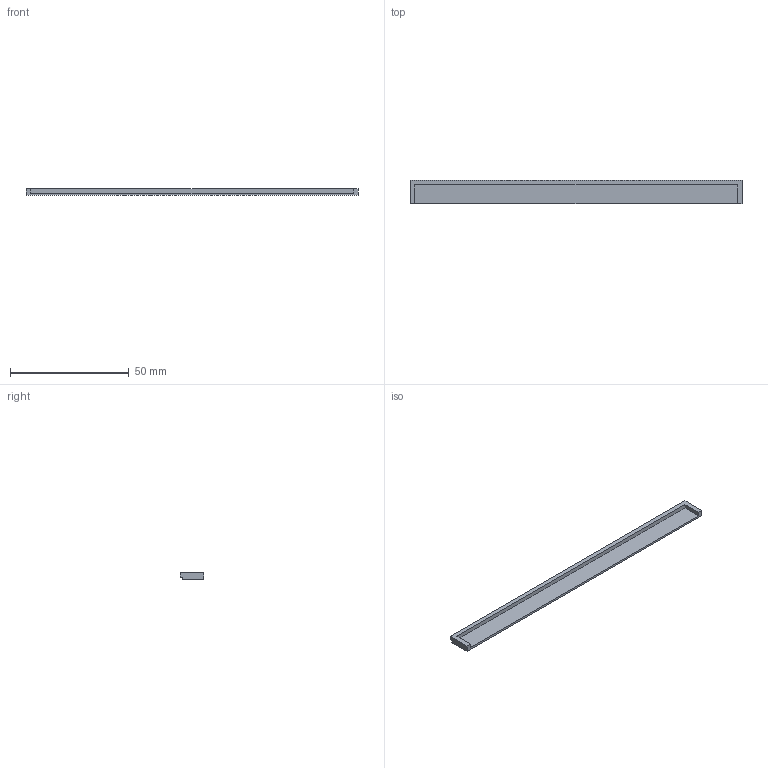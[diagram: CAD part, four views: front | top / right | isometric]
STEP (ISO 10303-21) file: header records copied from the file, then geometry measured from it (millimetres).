
FILE_DESCRIPTION(('Open CASCADE Model'),'2;1');
FILE_NAME('Open CASCADE Shape Model','2026-11-07T16:30:40',('Author'),( 'Open CASCADE'),'Open CASCADE STEP processor 7.9','Open CASCADE 7.9' ,'Unknown');
FILE_SCHEMA(('AUTOMOTIVE_DESIGN { 1 0 10303 214 1 1 1 1 }'));
Length unit declared in the file: millimetre
Products named in the file (1): Open CASCADE STEP translator 7.9 6
Bounding box: 140 x 10 x 2.7 mm (x, y, z)
Volume: 1695.6 mm3; surface area: 3637 mm2
Topology: 1 solids, 1 shells, 12 faces, 30 edges, 20 vertices
Faces by surface type: plane 12
Entity records: 750 total; most frequent: CARTESIAN_POINT 127, DIRECTION 112, LINE 86, VECTOR 86, ORIENTED_EDGE 60, PCURVE 60, DEFINITIONAL_REPRESENTATION 60, EDGE_CURVE 30
